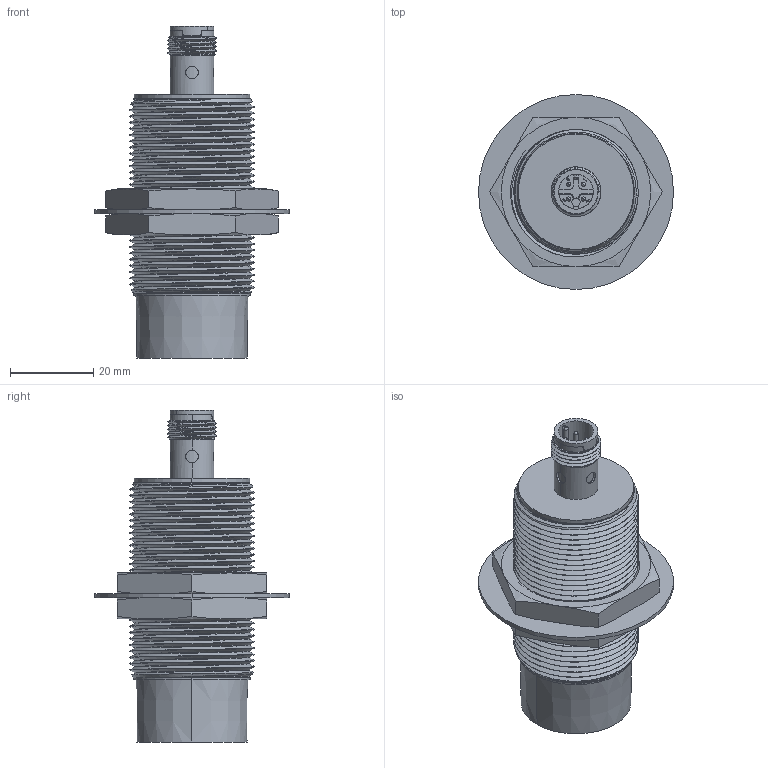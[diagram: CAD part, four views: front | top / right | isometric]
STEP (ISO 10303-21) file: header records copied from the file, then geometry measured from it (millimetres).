
FILE_DESCRIPTION (( 'STEP AP214' ), '1' );
FILE_NAME ('SN30Y-D-E2-K65.STEP', '2025-08-20T11:35:49', ( 'Windows User' ), ( 'P R C' ), 'SwSTEP 2.0', 'SolidWorks 2023', '' );
FILE_SCHEMA (( 'AUTOMOTIVE_DESIGN' ));
Length unit declared in the file: millimetre
Products named in the file (10): M30X46.9壳体_1.STEP; 铜接头_3.STEP; 准齐平前塞_1.STEP; M30螺丝_1.STEP; M12 Connector 更新定位槽_5.STEP; M30垫片.STEP; SN30Y-D-E2-K65; SN30Y-E 非埋入.STEP; 屏蔽圈xin_1.STEP; SN30Y-E 非埋入(2).STEP
Assembly tree (10 placements, depth 4):
  SN30Y-D-E2-K65
    SN30Y-E 非埋入.STEP
      SN30Y-E 非埋入(2).STEP
        铜接头_3.STEP
        M30X46.9壳体_1.STEP
        M12 Connector 更新定位槽_5.STEP
        屏蔽圈xin_1.STEP
        准齐平前塞_1.STEP
        M30螺丝_1.STEP
      M30垫片.STEP
      M30螺丝_1.STEP
Bounding box: 47 x 47 x 80 mm (x, y, z)
Volume: 14046.2 mm3; surface area: 27551.1 mm2
Topology: 8 solids, 9 shells, 611 faces, 1586 edges, 1009 vertices
Faces by surface type: cylinder 252, plane 182, bspline 69, cone 52, torus 46, sphere 10
Entity records: 30779 total; most frequent: CARTESIAN_POINT 17196, ORIENTED_EDGE 2982, DIRECTION 2516, EDGE_CURVE 1491, VERTEX_POINT 953, AXIS2_PLACEMENT_3D 942, LINE 632, VECTOR 632
